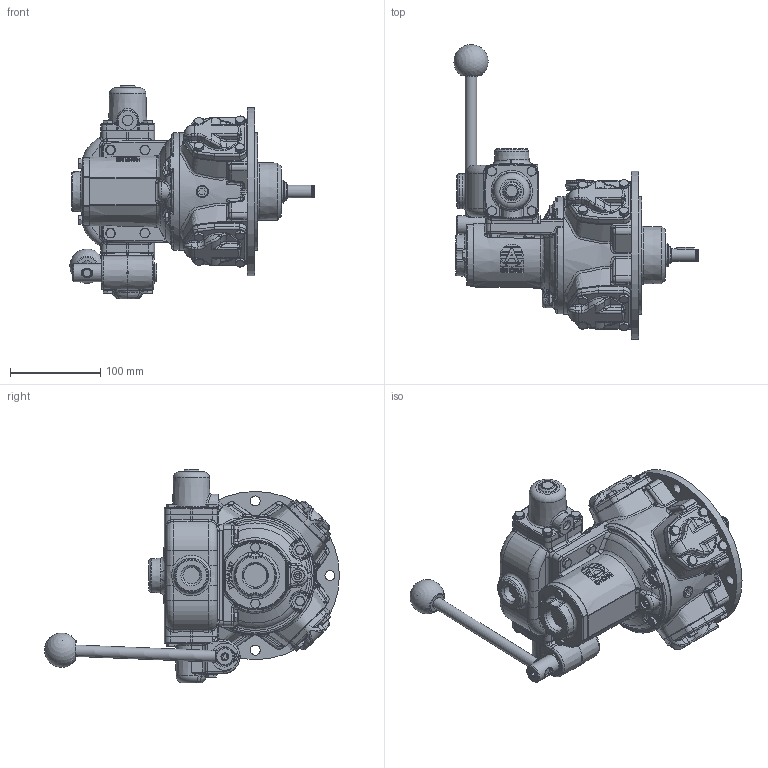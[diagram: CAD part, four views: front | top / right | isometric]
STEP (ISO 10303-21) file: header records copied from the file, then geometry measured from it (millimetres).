
FILE_DESCRIPTION (( 'STEP AP214' ), '1' );
FILE_NAME ('RM110+HCV110 Defeature + Logo.STEP', '2023-05-17T13:41:11', ( '' ), ( '' ), 'SwSTEP 2.0', 'SolidWorks 2022', '' );
FILE_SCHEMA (( 'AUTOMOTIVE_DESIGN' ));
Length unit declared in the file: millimetre
Products named in the file (1): RM110+HCV110 Defeature + Logo
Bounding box: 269.96 x 325.96 x 236.5 mm (x, y, z)
Volume: 3456249.5 mm3; surface area: 234031.8 mm2
Topology: 1 solids, 3 shells, 3010 faces, 7429 edges, 4466 vertices
Faces by surface type: plane 1234, bspline 662, cylinder 505, cone 402, torus 168, sphere 39
Full cylindrical faces by diameter (mm): 2 x7, 5 x1, 8 x1, 8.566 x3, 9 x9, 10 x37, 11 x4, 11.7 x1, 11.875 x8, 12.7 x1, 13 x9, 13.157 x1, 14 x1, 14.005 x1, 18.631 x2, 19 x2, 19.05 x1, 20 x3, 21.5 x3, 25.4 x1, 25.46 x1, 28.8 x1, 30 x2, 38.45 x1, 40.59 x1, 46.98 x1, 129.97 x1, 130 x1, 186 x1
Entity records: 171698 total; most frequent: CARTESIAN_POINT 75017, ORIENTED_EDGE 14114, DIRECTION 11677, EDGE_CURVE 7057, AXIS2_PLACEMENT_3D 4524, VERTEX_POINT 4359, EDGE_LOOP 3336, FACE_OUTER_BOUND 3133
